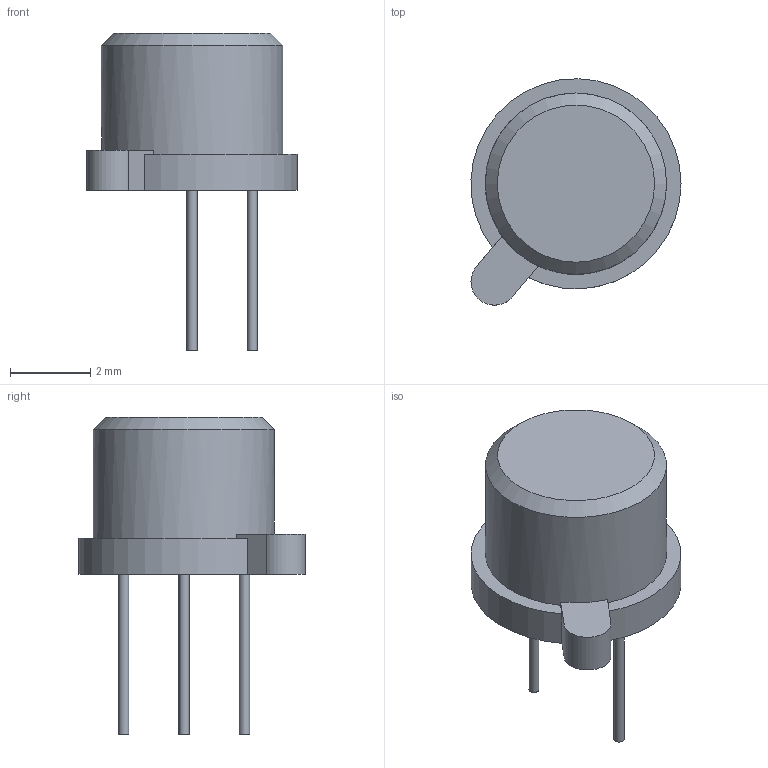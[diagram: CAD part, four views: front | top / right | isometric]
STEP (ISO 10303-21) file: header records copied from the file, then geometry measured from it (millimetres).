
FILE_DESCRIPTION(('FreeCAD Model'),'2;1');
FILE_NAME('Open CASCADE Shape Model','2023-12-26T11:38:09',( 'kicad StepUp'),('ksu MCAD'),'Open CASCADE STEP processor 7.6', 'FreeCAD','Unknown');
FILE_SCHEMA(('AUTOMOTIVE_DESIGN { 1 0 10303 214 1 1 1 1 }'));
Length unit declared in the file: millimetre
Products named in the file (1): pins
Bounding box: 5.24 x 5.65 x 7.91 mm (x, y, z)
Volume: 69 mm3; surface area: 112 mm2
Topology: 1 solids, 1 shells, 21 faces, 44 edges, 28 vertices
Faces by surface type: plane 13, cylinder 7, cone 1
Full cylindrical faces by diameter (mm): 0.25 x2, 0.26 x1, 4.52 x1
Entity records: 590 total; most frequent: DIRECTION 110, CARTESIAN_POINT 94, ORIENTED_EDGE 88, AXIS2_PLACEMENT_3D 44, EDGE_CURVE 44, VERTEX_POINT 28, FACE_BOUND 24, EDGE_LOOP 24
